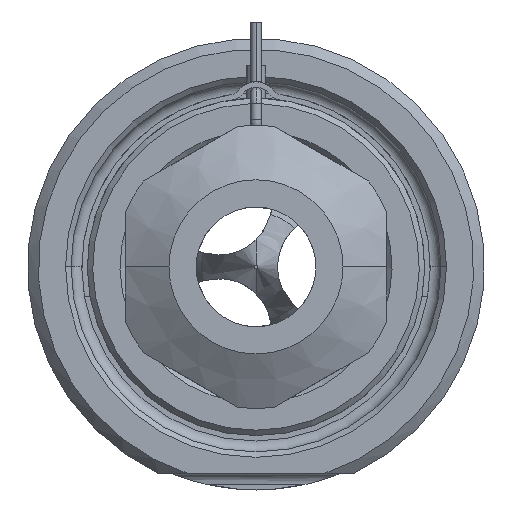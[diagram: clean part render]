
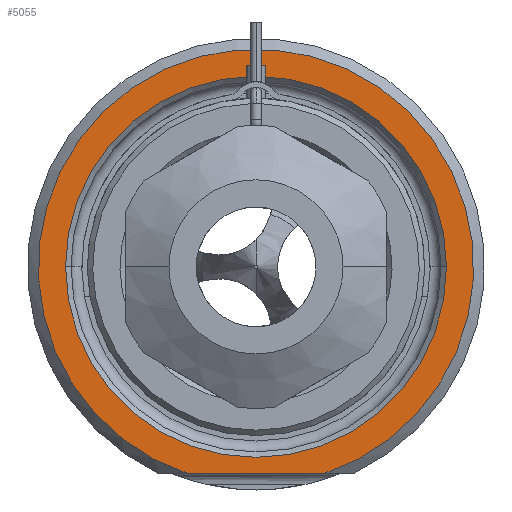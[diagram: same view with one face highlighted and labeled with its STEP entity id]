
A CAD part, front view. The second image highlights one B-rep face of the part: STEP entity #5055.
In plain terms, the highlighted planar face has unit normal (0, -1, 0).
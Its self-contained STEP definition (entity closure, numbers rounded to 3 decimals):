
#1281=CARTESIAN_POINT('',(0.,0.,0.));
#1282=DIRECTION('',(0.,-1.,0.));
#1283=DIRECTION('',(0.312,0.,-0.95));
#1284=AXIS2_PLACEMENT_3D('',#1281,#1282,#1283);
#1305=DIRECTION('',(1.,0.,0.));
#1306=VECTOR('',#1305,12.49);
#1307=CARTESIAN_POINT('',(-6.245,0.,-19.));
#1308=LINE('',#1307,#1306);
#1309=CARTESIAN_POINT('',(0.,0.,0.));
#1310=DIRECTION('',(0.,1.,0.));
#1311=DIRECTION('',(-1.,0.,0.));
#1312=AXIS2_PLACEMENT_3D('',#1309,#1310,#1311);
#1314=CARTESIAN_POINT('',(0.,0.,0.));
#1315=DIRECTION('',(0.,1.,0.));
#1316=DIRECTION('',(1.,0.,0.));
#1317=AXIS2_PLACEMENT_3D('',#1314,#1315,#1316);
#3314=CARTESIAN_POINT('',(-17.5,0.,0.));
#3315=CARTESIAN_POINT('',(17.5,0.,0.));
#3316=VERTEX_POINT('',#3314);
#3317=VERTEX_POINT('',#3315);
#3358=CARTESIAN_POINT('',(-6.245,0.,-19.));
#3359=CARTESIAN_POINT('',(6.245,0.,-19.));
#3360=VERTEX_POINT('',#3358);
#3361=VERTEX_POINT('',#3359);
#5040=CARTESIAN_POINT('',(0.,0.,0.));
#5041=DIRECTION('',(0.,-1.,0.));
#5042=DIRECTION('',(1.,0.,0.));
#5043=AXIS2_PLACEMENT_3D('',#5040,#5041,#5042);
#5044=PLANE('',#5043);
#5045=ORIENTED_EDGE('',*,*,#4972,.F.);
#5046=ORIENTED_EDGE('',*,*,#5032,.F.);
#5047=EDGE_LOOP('',(#5045,#5046));
#5048=FACE_OUTER_BOUND('',#5047,.F.);
#5050=ORIENTED_EDGE('',*,*,#5049,.F.);
#5052=ORIENTED_EDGE('',*,*,#5051,.F.);
#5053=EDGE_LOOP('',(#5050,#5052));
#5054=FACE_BOUND('',#5053,.F.);
#5055=ADVANCED_FACE('',(#5048,#5054),#5044,.T.);
#1285=CIRCLE('',#1284,20.);
#1313=CIRCLE('',#1312,17.5);
#1318=CIRCLE('',#1317,17.5);
#4972=EDGE_CURVE('',#3360,#3361,#1308,.T.);
#5032=EDGE_CURVE('',#3361,#3360,#1285,.T.);
#5049=EDGE_CURVE('',#3316,#3317,#1313,.T.);
#5051=EDGE_CURVE('',#3317,#3316,#1318,.T.);
